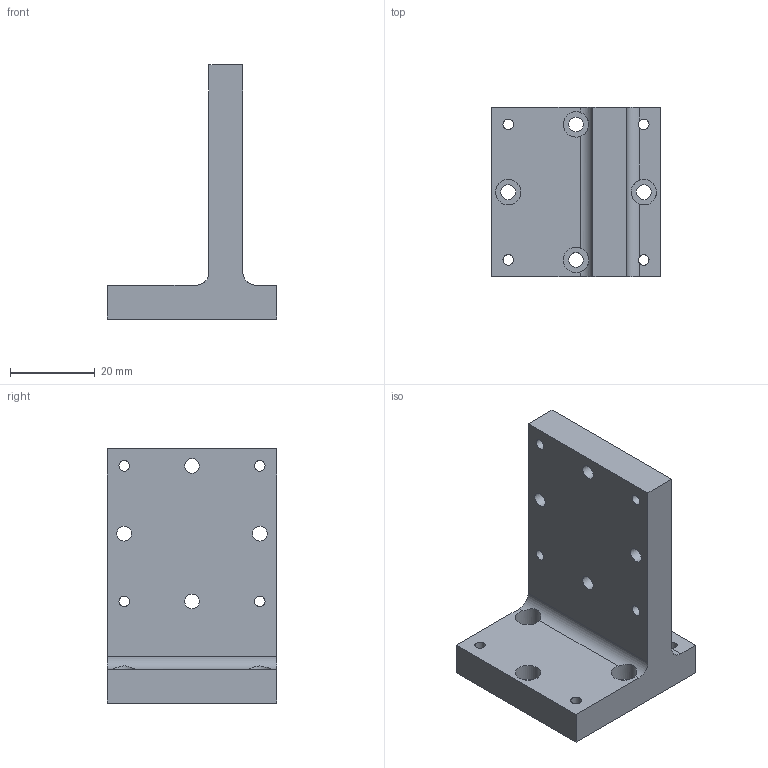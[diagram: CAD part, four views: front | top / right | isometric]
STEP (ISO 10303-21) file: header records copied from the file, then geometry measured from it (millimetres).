
FILE_DESCRIPTION( ( 'STEP AP203' ), '1' );
FILE_NAME( 'C:/3D-Trans/3D_A47-2+090217.step', '2009-02-17T08:26:15', ( ' ' ), ( ' ' ), 'XStep 1.0', ' ', ' ' );
FILE_SCHEMA( ( 'CONFIG_CONTROL_DESIGN' ) );
Length unit declared in the file: millimetre
Products named in the file (1): 1
Bounding box: 40 x 40 x 60 mm (x, y, z)
Volume: 28361.9 mm3; surface area: 10483.1 mm2
Topology: 1 solids, 1 shells, 36 faces, 110 edges, 75 vertices
Faces by surface type: cylinder 22, plane 14
Full cylindrical faces by diameter (mm): 2.5 x8, 3.5 x8, 6 x4
Entity records: 1265 total; most frequent: CARTESIAN_POINT 281, DIRECTION 193, ORIENTED_EDGE 160, EDGE_LOOP 87, AXIS2_PLACEMENT_3D 81, EDGE_CURVE 80, VERTEX_POINT 65, FACE_OUTER_BOUND 56
